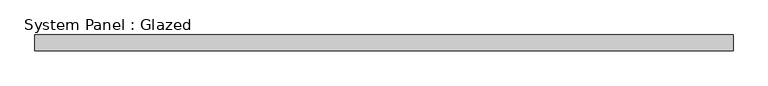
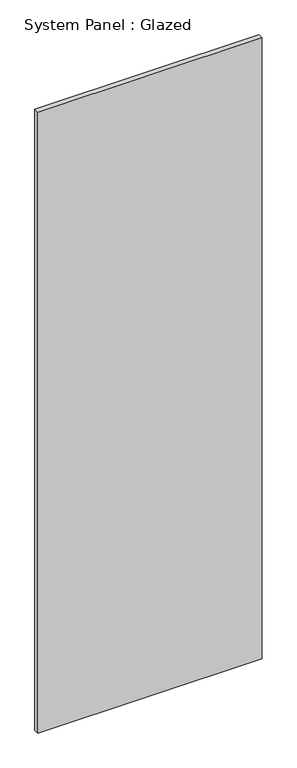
"""IFC4 building model written with IfcOpenShell, lengths in millimetres: plate geometry, System Panel : Glazed."""

from ifc_helpers import new_model, si_unit, origin, origin_with_axes, place, context, project, spatial, polyline, outline, extrude, source, transform, mapped, element, save


def system_panel_glazed_b92d501e(model_context):
    return source(origin(), model_context, "Body", "SweptSolid", [
        extrude(outline(polyline([(567.2666667, 19.05), (-567.2666667, 19.05), (-567.2666667, 44.45), (567.2666667, 44.45), (567.2666667, 19.05)])), origin_with_axes(), (0.0, 0.0, 1.0), 3318.9333333),
    ])


if __name__ == "__main__":
    model = new_model("IFC4")
    model_context = context("Model", 3, world=origin())
    ifc_project = project(units=[si_unit("LENGTHUNIT", "METRE", prefix="MILLI")], contexts=[model_context])
    site = spatial("IfcSite", under=ifc_project)
    building = spatial("IfcBuilding", under=site)
    placement = place(None, origin())
    system_panel_glazed_shape = system_panel_glazed_b92d501e(model_context)
    element("IfcPlate", 1, ObjectType="System Panel : Glazed", at=placement, inside=building, context=model_context, shape_type="MappedRepresentation", body=[
        mapped(system_panel_glazed_shape, transform((0.0, 0.0, 0.0), x_axis=(1.0, 0.0, 0.0), y_axis=(0.0, 1.0, 0.0), z_axis=(0.0, 0.0, 1.0))),
    ])
    save(model, "model.ifc")
